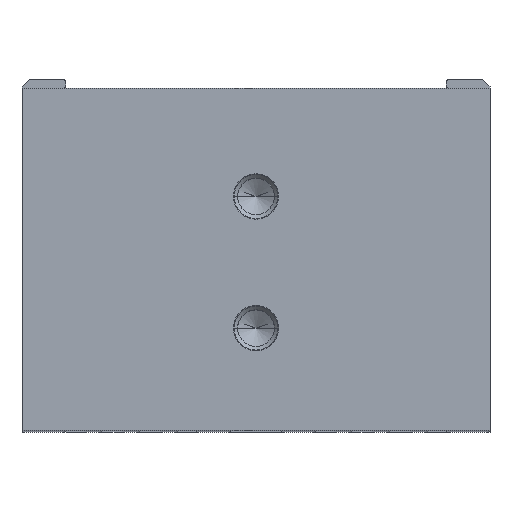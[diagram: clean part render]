
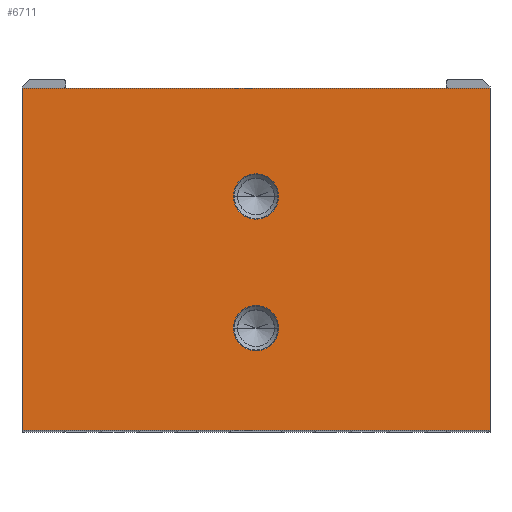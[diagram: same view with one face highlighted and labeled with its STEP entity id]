
A CAD part, top view. The second image highlights one B-rep face of the part: STEP entity #6711.
In plain terms, the highlighted planar face has unit normal (0, 0, 1).
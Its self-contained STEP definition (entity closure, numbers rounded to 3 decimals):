
#1380=DIRECTION('',(0.,-1.,0.));
#1381=VECTOR('',#1380,23.4);
#1382=CARTESIAN_POINT('',(-16.,11.402,39.));
#1383=LINE('',#1382,#1381);
#1384=DIRECTION('',(-1.,0.,0.));
#1385=VECTOR('',#1384,32.);
#1386=CARTESIAN_POINT('',(16.,11.402,39.));
#1387=LINE('',#1386,#1385);
#1388=DIRECTION('',(0.,1.,0.));
#1389=VECTOR('',#1388,23.4);
#1390=CARTESIAN_POINT('',(16.,-11.998,39.));
#1391=LINE('',#1390,#1389);
#1392=DIRECTION('',(1.,0.,0.));
#1393=VECTOR('',#1392,32.);
#1394=CARTESIAN_POINT('',(-16.,-11.998,39.));
#1395=LINE('',#1394,#1393);
#1396=CARTESIAN_POINT('',(0.,4.002,
39.));
#1397=DIRECTION('',(0.,0.,-1.));
#1398=DIRECTION('',(1.,0.,0.));
#1399=AXIS2_PLACEMENT_3D('',#1396,#1397,#1398);
#1401=CARTESIAN_POINT('',(0.,4.002,
39.));
#1402=DIRECTION('',(0.,0.,-1.));
#1403=DIRECTION('',(-1.,0.,0.));
#1404=AXIS2_PLACEMENT_3D('',#1401,#1402,#1403);
#1406=CARTESIAN_POINT('',(0.,-4.998,
39.));
#1407=DIRECTION('',(0.,0.,-1.));
#1408=DIRECTION('',(1.,0.,0.));
#1409=AXIS2_PLACEMENT_3D('',#1406,#1407,#1408);
#1411=CARTESIAN_POINT('',(0.,-4.998,
39.));
#1412=DIRECTION('',(0.,0.,-1.));
#1413=DIRECTION('',(-1.,0.,0.));
#1414=AXIS2_PLACEMENT_3D('',#1411,#1412,#1413);
#3146=CARTESIAN_POINT('',(-16.,11.402,39.));
#3147=CARTESIAN_POINT('',(-16.,-11.998,39.));
#3148=VERTEX_POINT('',#3146);
#3149=VERTEX_POINT('',#3147);
#3150=CARTESIAN_POINT('',(16.,-11.998,39.));
#3151=VERTEX_POINT('',#3150);
#3152=CARTESIAN_POINT('',(16.,11.402,39.));
#3153=VERTEX_POINT('',#3152);
#4082=CARTESIAN_POINT('',(1.55,4.002,39.));
#4083=CARTESIAN_POINT('',(-1.55,4.002,39.));
#4084=VERTEX_POINT('',#4082);
#4085=VERTEX_POINT('',#4083);
#4090=CARTESIAN_POINT('',(1.55,-4.998,39.));
#4091=CARTESIAN_POINT('',(-1.55,-4.998,
39.));
#4092=VERTEX_POINT('',#4090);
#4093=VERTEX_POINT('',#4091);
#6688=CARTESIAN_POINT('',(0.,0.,39.));
#6689=DIRECTION('',(0.,0.,1.));
#6690=DIRECTION('',(1.,0.,0.));
#6691=AXIS2_PLACEMENT_3D('',#6688,#6689,#6690);
#6692=PLANE('',#6691);
#6693=ORIENTED_EDGE('',*,*,#4282,.F.);
#6694=ORIENTED_EDGE('',*,*,#4187,.F.);
#6695=ORIENTED_EDGE('',*,*,#5040,.F.);
#6696=ORIENTED_EDGE('',*,*,#6413,.F.);
#6697=EDGE_LOOP('',(#6693,#6694,#6695,#6696));
#6698=FACE_OUTER_BOUND('',#6697,.F.);
#6700=ORIENTED_EDGE('',*,*,#6699,.F.);
#6702=ORIENTED_EDGE('',*,*,#6701,.F.);
#6703=EDGE_LOOP('',(#6700,#6702));
#6704=FACE_BOUND('',#6703,.F.);
#6706=ORIENTED_EDGE('',*,*,#6705,.F.);
#6708=ORIENTED_EDGE('',*,*,#6707,.F.);
#6709=EDGE_LOOP('',(#6706,#6708));
#6710=FACE_BOUND('',#6709,.F.);
#1400=CIRCLE('',#1399,1.55);
#1405=CIRCLE('',#1404,1.55);
#1410=CIRCLE('',#1409,1.55);
#1415=CIRCLE('',#1414,1.55);
#4187=EDGE_CURVE('',#3153,#3148,#1387,.T.);
#4282=EDGE_CURVE('',#3148,#3149,#1383,.T.);
#5040=EDGE_CURVE('',#3151,#3153,#1391,.T.);
#6413=EDGE_CURVE('',#3149,#3151,#1395,.T.);
#6699=EDGE_CURVE('',#4084,#4085,#1400,.T.);
#6701=EDGE_CURVE('',#4085,#4084,#1405,.T.);
#6705=EDGE_CURVE('',#4092,#4093,#1410,.T.);
#6707=EDGE_CURVE('',#4093,#4092,#1415,.T.);
#6711=ADVANCED_FACE('',(#6698,#6704,#6710),#6692,.T.);
